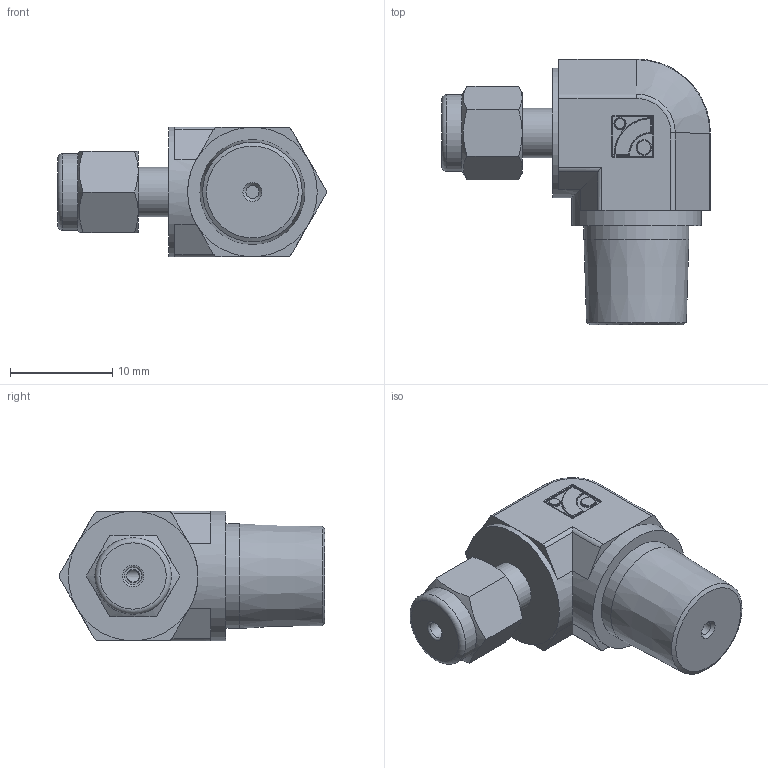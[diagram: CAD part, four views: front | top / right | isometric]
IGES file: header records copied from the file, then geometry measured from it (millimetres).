
Global section: file name: No Iges File Name specified; native system: Autodesk Inventor 2012; preprocessor: AutoDesk Inventor Iges Exporter R2012; author: 硅己绕,,1; organization: 1; date: 20150702.173726; units: millimetre
Bounding box: 26.35 x 26.05 x 12.7 mm (x, y, z)
Volume: 3472.6 mm3; surface area: 1758 mm2
Topology: 1 solids, 1 shells, 128 faces, 275 edges, 156 vertices
Faces by surface type: plane 44, revolution 28, cylinder 28, torus 13, cone 11, sphere 4
Full cylindrical faces by diameter (mm): 1.08 x1, 1.44 x1, 4.861 x1, 7.5 x1, 10.28 x1, 12.7 x2
